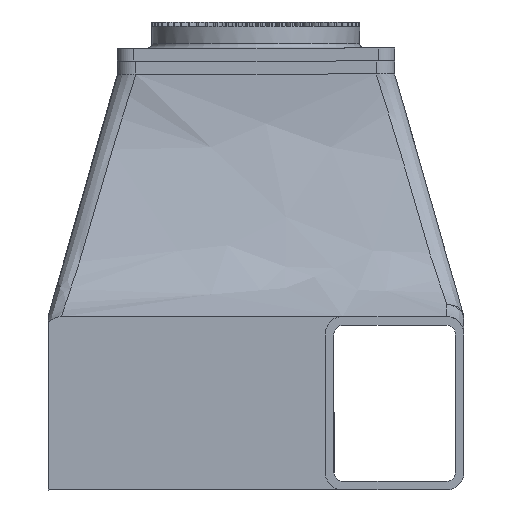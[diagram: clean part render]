
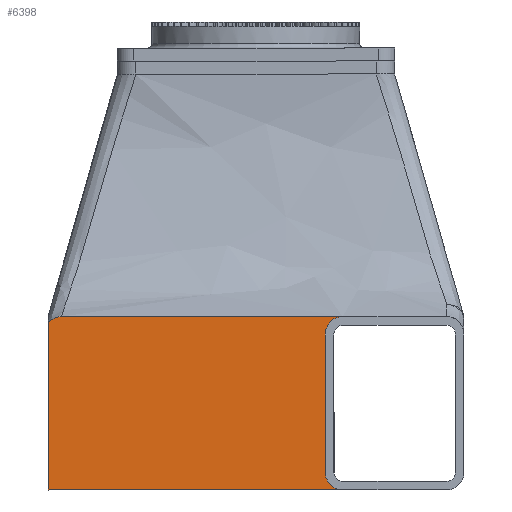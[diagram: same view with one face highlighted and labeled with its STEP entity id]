
A CAD part, left-side view. The second image highlights one B-rep face of the part: STEP entity #6398.
In plain terms, the highlighted planar face has unit normal (-1, 0, 0).
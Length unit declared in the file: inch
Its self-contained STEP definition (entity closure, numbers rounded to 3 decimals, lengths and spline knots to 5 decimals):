
#441=LINE('',#12015,#811);
#451=LINE('',#12050,#821);
#464=LINE('',#13660,#834);
#469=LINE('',#13845,#839);
#811=VECTOR('',#8107,8.);
#821=VECTOR('',#8137,17.);
#834=VECTOR('',#8200,16.22098);
#839=VECTOR('',#8209,9.6218);
#1336=FACE_OUTER_BOUND('',#1708,.T.);
#1708=EDGE_LOOP('',(#5707,#5708,#5709,#5710,#5711,#5712,#5713));
#2095=CIRCLE('',#6932,1.);
#2096=CIRCLE('',#6933,1.);
#2394=B_SPLINE_CURVE_WITH_KNOTS('',3,(#15000,#15001,#15002,#15003,#15004,
#15005,#15006,#15007,#15008,#15009,#15010,#15011,#15012,#15013),
 .UNSPECIFIED.,.F.,.F.,(4,2,2,2,2,2,4),(0.,0.13317,
0.26893,0.54817,1.13475,1.69732,2.27113),
 .UNSPECIFIED.);
#2936=VERTEX_POINT('',#12000);
#2942=VERTEX_POINT('',#12012);
#2943=VERTEX_POINT('',#12014);
#2957=VERTEX_POINT('',#12047);
#2958=VERTEX_POINT('',#12049);
#2995=VERTEX_POINT('',#13223);
#3000=VERTEX_POINT('',#13844);
#3851=EDGE_CURVE('',#2942,#2943,#441,.T.);
#3869=EDGE_CURVE('',#2957,#2958,#451,.T.);
#3912=EDGE_CURVE('',#2936,#2995,#464,.T.);
#3919=EDGE_CURVE('',#3000,#2958,#469,.T.);
#3934=EDGE_CURVE('',#2995,#3000,#2394,.T.);
#3935=EDGE_CURVE('',#2957,#2943,#2095,.T.);
#3936=EDGE_CURVE('',#2942,#2936,#2096,.T.);
#5707=ORIENTED_EDGE('',*,*,#3912,.T.);
#5708=ORIENTED_EDGE('',*,*,#3934,.T.);
#5709=ORIENTED_EDGE('',*,*,#3919,.T.);
#5710=ORIENTED_EDGE('',*,*,#3869,.F.);
#5711=ORIENTED_EDGE('',*,*,#3935,.T.);
#5712=ORIENTED_EDGE('',*,*,#3851,.F.);
#5713=ORIENTED_EDGE('',*,*,#3936,.T.);
#6104=PLANE('',#6931);
#6398=ADVANCED_FACE('',(#1336),#6104,.F.);
#6931=AXIS2_PLACEMENT_3D('',#14999,#8225,#8226);
#6932=AXIS2_PLACEMENT_3D('',#15014,#8227,#8228);
#6933=AXIS2_PLACEMENT_3D('',#15015,#8229,#8230);
#8107=DIRECTION('',(0.,0.,-1.));
#8137=DIRECTION('',(0.,1.,0.));
#8200=DIRECTION('',(0.,1.,0.));
#8209=DIRECTION('',(0.,0.,-1.));
#8225=DIRECTION('center_axis',(1.,0.,0.));
#8226=DIRECTION('ref_axis',(0.,0.,-1.));
#8227=DIRECTION('center_axis',(1.,0.,0.));
#8228=DIRECTION('ref_axis',(0.,1.,0.));
#8229=DIRECTION('center_axis',(1.,0.,0.));
#8230=DIRECTION('ref_axis',(0.,1.,0.));
#12000=CARTESIAN_POINT('',(-14.00717,-5.01131,9.99983));
#12012=CARTESIAN_POINT('',(-14.00717,-4.01131,8.99983));
#12014=CARTESIAN_POINT('',(-14.00717,-4.01131,0.99983));
#12015=CARTESIAN_POINT('',(-14.00717,-4.01131,8.99983));
#12047=CARTESIAN_POINT('',(-14.00717,-5.01131,-0.00017));
#12049=CARTESIAN_POINT('',(-14.00717,11.98869,-0.00017));
#12050=CARTESIAN_POINT('',(-14.00717,-5.01131,-0.00017));
#13223=CARTESIAN_POINT('',(-14.00717,11.20967,9.99983));
#13660=CARTESIAN_POINT('',(-14.00717,-5.01131,9.99983));
#13844=CARTESIAN_POINT('',(-14.00717,11.98869,9.62163));
#13845=CARTESIAN_POINT('',(-14.00717,11.98869,9.62163));
#14999=CARTESIAN_POINT('Origin',(-14.00717,-4.01131,-0.00017));
#15000=CARTESIAN_POINT('Ctrl Pts',(-14.00717,11.20967,9.99983));
#15001=CARTESIAN_POINT('Ctrl Pts',(-14.00717,11.22715,9.99983));
#15002=CARTESIAN_POINT('Ctrl Pts',(-14.00717,11.24461,9.99933));
#15003=CARTESIAN_POINT('Ctrl Pts',(-14.00717,11.27986,9.99734));
#15004=CARTESIAN_POINT('Ctrl Pts',(-14.00717,11.29761,9.99583));
#15005=CARTESIAN_POINT('Ctrl Pts',(-14.00717,11.35174,9.98967));
#15006=CARTESIAN_POINT('Ctrl Pts',(-14.00717,11.38787,9.98341));
#15007=CARTESIAN_POINT('Ctrl Pts',(-14.00717,11.49856,9.95767));
#15008=CARTESIAN_POINT('Ctrl Pts',(-14.00717,11.57117,9.93136));
#15009=CARTESIAN_POINT('Ctrl Pts',(-14.00717,11.70636,9.86438));
#15010=CARTESIAN_POINT('Ctrl Pts',(-14.00717,11.76884,9.82454));
#15011=CARTESIAN_POINT('Ctrl Pts',(-14.00717,11.88592,9.732));
#15012=CARTESIAN_POINT('Ctrl Pts',(-14.00717,11.9401,9.67924));
#15013=CARTESIAN_POINT('Ctrl Pts',(-14.00717,11.98869,9.62163));
#15014=CARTESIAN_POINT('Origin',(-14.00717,-5.01131,0.99983));
#15015=CARTESIAN_POINT('Origin',(-14.00717,-5.01131,8.99983));
